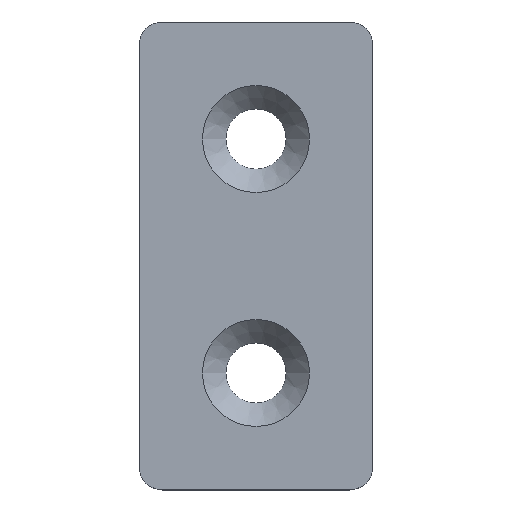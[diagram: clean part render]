
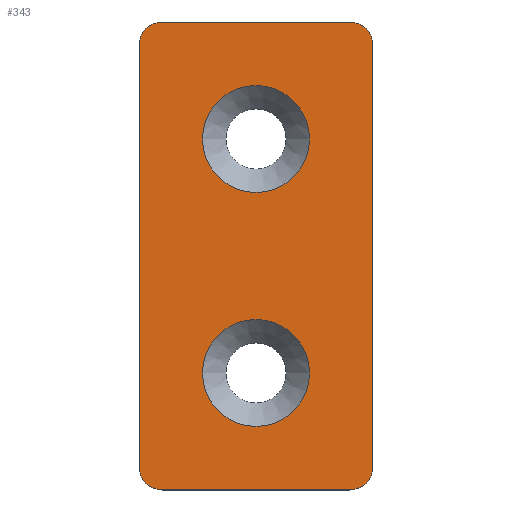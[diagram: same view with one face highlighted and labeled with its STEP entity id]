
A CAD part, top view. The second image highlights one B-rep face of the part: STEP entity #343.
In plain terms, the highlighted planar face has unit normal (0, 0, 1).
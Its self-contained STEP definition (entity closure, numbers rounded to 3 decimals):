
#3 = PLANE ( 'NONE',  #66 ) ;
#10 = CARTESIAN_POINT ( 'NONE',  ( 15., 27., 3. ) ) ;
#15 = EDGE_CURVE ( 'NONE', #348, #261, #315, .T. ) ;
#16 = CARTESIAN_POINT ( 'NONE',  ( -6.855, 15., 3. ) ) ;
#17 = CIRCLE ( 'NONE', #349, 6.855 ) ;
#21 = DIRECTION ( 'NONE',  ( 0., 0., -1. ) ) ;
#25 = CIRCLE ( 'NONE', #284, 6.855 ) ;
#28 = VERTEX_POINT ( 'NONE', #190 ) ;
#31 = AXIS2_PLACEMENT_3D ( 'NONE', #385, #21, #184 ) ;
#34 = DIRECTION ( 'NONE',  ( 0., 0., 1. ) ) ;
#40 = ORIENTED_EDGE ( 'NONE', *, *, #364, .F. ) ;
#42 = DIRECTION ( 'NONE',  ( 1., 0., 0. ) ) ;
#46 = DIRECTION ( 'NONE',  ( 1., 0., 0. ) ) ;
#48 = DIRECTION ( 'NONE',  ( 0., 0., 1. ) ) ;
#51 = FACE_OUTER_BOUND ( 'NONE', #419, .T. ) ;
#53 = VERTEX_POINT ( 'NONE', #264 ) ;
#64 = CARTESIAN_POINT ( 'NONE',  ( 0., -15., 3. ) ) ;
#66 = AXIS2_PLACEMENT_3D ( 'NONE', #365, #48, #42 ) ;
#71 = CARTESIAN_POINT ( 'NONE',  ( 15., -27., 3. ) ) ;
#75 = CIRCLE ( 'NONE', #481, 3. ) ;
#76 = CARTESIAN_POINT ( 'NONE',  ( -12., 30., 3. ) ) ;
#78 = CARTESIAN_POINT ( 'NONE',  ( -15., 27., 3. ) ) ;
#83 = ORIENTED_EDGE ( 'NONE', *, *, #15, .F. ) ;
#90 = CARTESIAN_POINT ( 'NONE',  ( -6.855, -15., 3. ) ) ;
#92 = ORIENTED_EDGE ( 'NONE', *, *, #104, .F. ) ;
#93 = DIRECTION ( 'NONE',  ( 1., 0., 0. ) ) ;
#100 = ORIENTED_EDGE ( 'NONE', *, *, #446, .F. ) ;
#104 = EDGE_CURVE ( 'NONE', #189, #305, #266, .T. ) ;
#106 = AXIS2_PLACEMENT_3D ( 'NONE', #482, #34, #236 ) ;
#113 = EDGE_CURVE ( 'NONE', #261, #348, #17, .T. ) ;
#122 = FACE_BOUND ( 'NONE', #334, .T. ) ;
#126 = DIRECTION ( 'NONE',  ( 1., 0., 0. ) ) ;
#129 = VECTOR ( 'NONE', #133, 1000. ) ;
#130 = DIRECTION ( 'NONE',  ( 0., 1., 0. ) ) ;
#133 = DIRECTION ( 'NONE',  ( 0., -1., 0. ) ) ;
#135 = DIRECTION ( 'NONE',  ( 0., 0., 1. ) ) ;
#139 = DIRECTION ( 'NONE',  ( 0., 0., 1. ) ) ;
#141 = EDGE_CURVE ( 'NONE', #28, #151, #524, .T. ) ;
#151 = VERTEX_POINT ( 'NONE', #195 ) ;
#154 = ORIENTED_EDGE ( 'NONE', *, *, #188, .F. ) ;
#162 = EDGE_CURVE ( 'NONE', #413, #189, #192, .T. ) ;
#163 = DIRECTION ( 'NONE',  ( 1., 0., 0. ) ) ;
#164 = VERTEX_POINT ( 'NONE', #71 ) ;
#165 = CARTESIAN_POINT ( 'NONE',  ( 6.855, 15., 3. ) ) ;
#175 = LINE ( 'NONE', #333, #129 ) ;
#179 = VECTOR ( 'NONE', #163, 1000. ) ;
#184 = DIRECTION ( 'NONE',  ( 1., 0., 0. ) ) ;
#186 = VECTOR ( 'NONE', #272, 1000. ) ;
#188 = EDGE_CURVE ( 'NONE', #269, #422, #25, .T. ) ;
#189 = VERTEX_POINT ( 'NONE', #484 ) ;
#190 = CARTESIAN_POINT ( 'NONE',  ( 12., -30., 3. ) ) ;
#192 = LINE ( 'NONE', #355, #179 ) ;
#195 = CARTESIAN_POINT ( 'NONE',  ( -12., -30., 3. ) ) ;
#226 = DIRECTION ( 'NONE',  ( 1., 0., 0. ) ) ;
#233 = AXIS2_PLACEMENT_3D ( 'NONE', #344, #139, #226 ) ;
#236 = DIRECTION ( 'NONE',  ( 1., 0., 0. ) ) ;
#254 = ORIENTED_EDGE ( 'NONE', *, *, #113, .F. ) ;
#260 = DIRECTION ( 'NONE',  ( 0., 0., -1. ) ) ;
#261 = VERTEX_POINT ( 'NONE', #16 ) ;
#264 = CARTESIAN_POINT ( 'NONE',  ( -15., -27., 3. ) ) ;
#266 = CIRCLE ( 'NONE', #31, 3. ) ;
#269 = VERTEX_POINT ( 'NONE', #90 ) ;
#272 = DIRECTION ( 'NONE',  ( -1., 0., 0. ) ) ;
#278 = DIRECTION ( 'NONE',  ( 0., 0., 1. ) ) ;
#284 = AXIS2_PLACEMENT_3D ( 'NONE', #64, #278, #312 ) ;
#288 = ORIENTED_EDGE ( 'NONE', *, *, #324, .F. ) ;
#289 = DIRECTION ( 'NONE',  ( 0., 0., -1. ) ) ;
#297 = ORIENTED_EDGE ( 'NONE', *, *, #162, .F. ) ;
#301 = AXIS2_PLACEMENT_3D ( 'NONE', #495, #326, #46 ) ;
#305 = VERTEX_POINT ( 'NONE', #10 ) ;
#312 = DIRECTION ( 'NONE',  ( 1., 0., 0. ) ) ;
#314 = EDGE_CURVE ( 'NONE', #305, #164, #175, .T. ) ;
#315 = CIRCLE ( 'NONE', #233, 6.855 ) ;
#324 = EDGE_CURVE ( 'NONE', #151, #53, #523, .T. ) ;
#326 = DIRECTION ( 'NONE',  ( 0., 0., -1. ) ) ;
#328 = VERTEX_POINT ( 'NONE', #78 ) ;
#333 = CARTESIAN_POINT ( 'NONE',  ( 15., 27., 3. ) ) ;
#334 = EDGE_LOOP ( 'NONE', ( #83, #254 ) ) ;
#339 = EDGE_LOOP ( 'NONE', ( #342, #154 ) ) ;
#342 = ORIENTED_EDGE ( 'NONE', *, *, #522, .F. ) ;
#343 = ADVANCED_FACE ( 'NONE', ( #122, #420, #51 ), #3, .T. ) ;
#344 = CARTESIAN_POINT ( 'NONE',  ( 0., 15., 3. ) ) ;
#348 = VERTEX_POINT ( 'NONE', #165 ) ;
#349 = AXIS2_PLACEMENT_3D ( 'NONE', #504, #135, #517 ) ;
#355 = CARTESIAN_POINT ( 'NONE',  ( -12., 30., 3. ) ) ;
#364 = EDGE_CURVE ( 'NONE', #164, #28, #506, .T. ) ;
#365 = CARTESIAN_POINT ( 'NONE',  ( -15., -30., 3. ) ) ;
#377 = LINE ( 'NONE', #498, #389 ) ;
#385 = CARTESIAN_POINT ( 'NONE',  ( 12., 27., 3. ) ) ;
#389 = VECTOR ( 'NONE', #130, 1000. ) ;
#391 = EDGE_CURVE ( 'NONE', #53, #328, #377, .T. ) ;
#399 = CARTESIAN_POINT ( 'NONE',  ( -12., -30., 3. ) ) ;
#413 = VERTEX_POINT ( 'NONE', #76 ) ;
#419 = EDGE_LOOP ( 'NONE', ( #92, #297, #100, #496, #288, #521, #40, #516 ) ) ;
#420 = FACE_BOUND ( 'NONE', #339, .T. ) ;
#422 = VERTEX_POINT ( 'NONE', #423 ) ;
#423 = CARTESIAN_POINT ( 'NONE',  ( 6.855, -15., 3. ) ) ;
#431 = AXIS2_PLACEMENT_3D ( 'NONE', #448, #289, #126 ) ;
#446 = EDGE_CURVE ( 'NONE', #328, #413, #75, .T. ) ;
#448 = CARTESIAN_POINT ( 'NONE',  ( 12., -27., 3. ) ) ;
#462 = CARTESIAN_POINT ( 'NONE',  ( -12., 27., 3. ) ) ;
#474 = CIRCLE ( 'NONE', #106, 6.855 ) ;
#481 = AXIS2_PLACEMENT_3D ( 'NONE', #462, #260, #93 ) ;
#482 = CARTESIAN_POINT ( 'NONE',  ( 0., -15., 3. ) ) ;
#484 = CARTESIAN_POINT ( 'NONE',  ( 12., 30., 3. ) ) ;
#495 = CARTESIAN_POINT ( 'NONE',  ( -12., -27., 3. ) ) ;
#496 = ORIENTED_EDGE ( 'NONE', *, *, #391, .F. ) ;
#498 = CARTESIAN_POINT ( 'NONE',  ( -15., -27., 3. ) ) ;
#504 = CARTESIAN_POINT ( 'NONE',  ( 0., 15., 3. ) ) ;
#506 = CIRCLE ( 'NONE', #431, 3. ) ;
#516 = ORIENTED_EDGE ( 'NONE', *, *, #314, .F. ) ;
#517 = DIRECTION ( 'NONE',  ( 1., 0., 0. ) ) ;
#521 = ORIENTED_EDGE ( 'NONE', *, *, #141, .F. ) ;
#522 = EDGE_CURVE ( 'NONE', #422, #269, #474, .T. ) ;
#523 = CIRCLE ( 'NONE', #301, 3. ) ;
#524 = LINE ( 'NONE', #399, #186 ) ;
